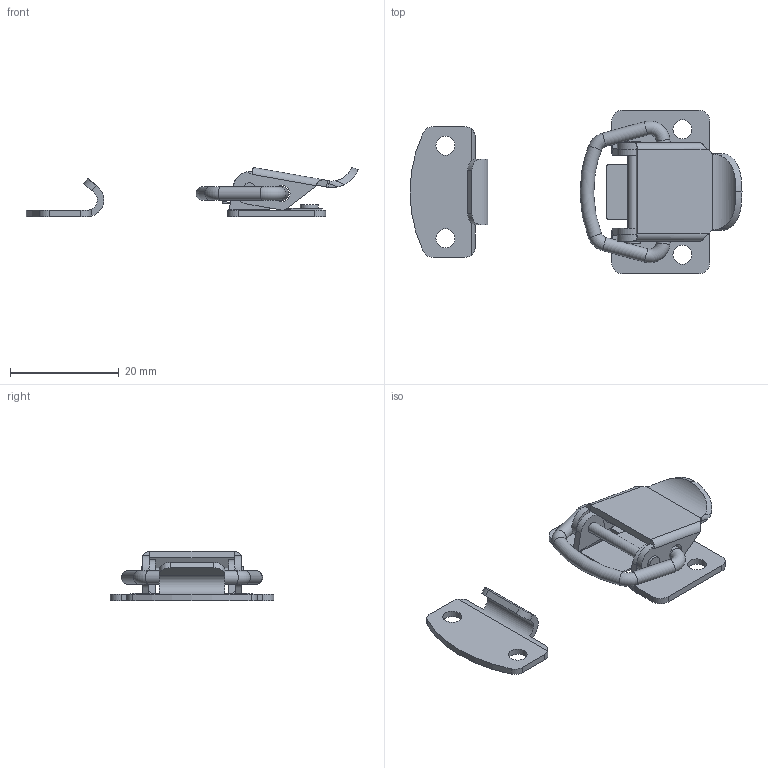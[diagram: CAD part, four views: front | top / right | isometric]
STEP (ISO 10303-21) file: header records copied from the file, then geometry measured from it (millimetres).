
FILE_DESCRIPTION(/* description */ (''),/* implementation_level */ '2;1');
FILE_NAME(/* name */ '\\Nas\db20\C-E3\DR_C-E3.stp',/* time_stamp */ '2019-11-04T14:37:09+09:00',/* author */ ('user'),/* organization */ (''),/* preprocessor_version */ 'ST-DEVELOPER v15.6',/* originating_system */ 'Autodesk Inventor 2015',/* authorisation */ '');
FILE_SCHEMA (('AUTOMOTIVE_DESIGN { 1 0 10303 214 3 1 1 }'));
Length unit declared in the file: millimetre
Products named in the file (5): DR_C-E3-BR; DR_C-E3-C; DR_C-E3-H; DR_C-E3-P; DR_C-E3
Bounding box: 60.93 x 30 x 9.07 mm (x, y, z)
Volume: 1851.7 mm3; surface area: 3721.9 mm2
Topology: 4 solids, 4 shells, 150 faces, 390 edges, 246 vertices
Faces by surface type: cylinder 64, plane 59, bspline 20, torus 7
Full cylindrical faces by diameter (mm): 2 x3, 2.5 x8, 3 x2, 3.3 x1, 3.5 x4
Entity records: 5363 total; most frequent: CARTESIAN_POINT 1751, ORIENTED_EDGE 718, DIRECTION 691, EDGE_CURVE 359, AXIS2_PLACEMENT_3D 265, VERTEX_POINT 246, EDGE_LOOP 197, LINE 161
